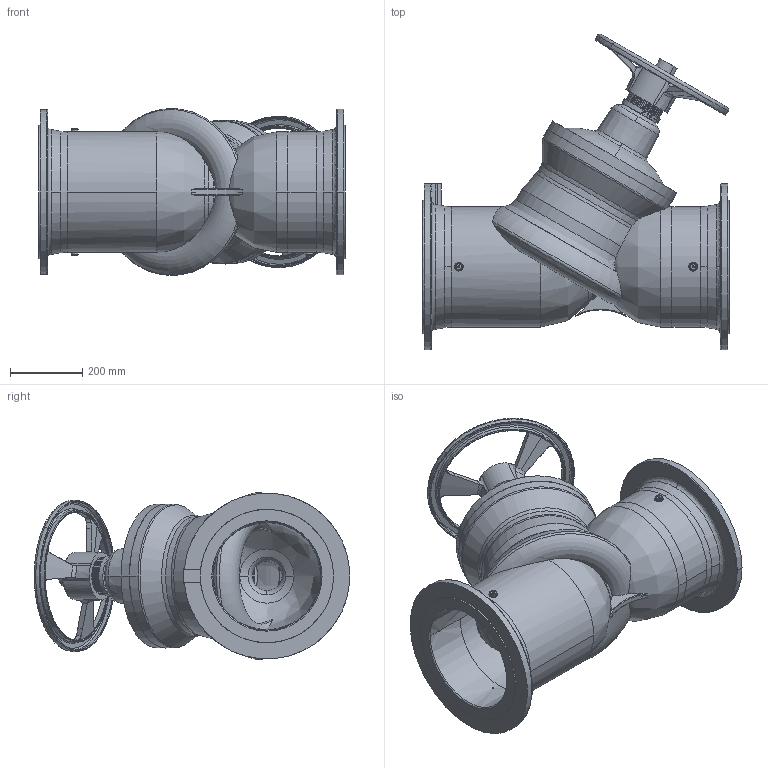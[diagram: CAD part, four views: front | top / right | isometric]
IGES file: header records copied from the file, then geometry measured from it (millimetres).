
Global section: file name: No Iges File Name specified; native system: AutoDesk Inventor R12.0; preprocessor: AutoDesk Inventor Iges Exporter R12.0; date: 20110301.152122; units: millimetre
Bounding box: 850 x 875.55 x 462.62 mm (x, y, z)
Volume: 44305270.7 mm3; surface area: 3258654.7 mm2
Topology: 1 solids, 4 shells, 945 faces, 2507 edges, 1646 vertices
Faces by surface type: bspline 313, plane 284, revolution 122, cylinder 108, cone 64, torus 54
